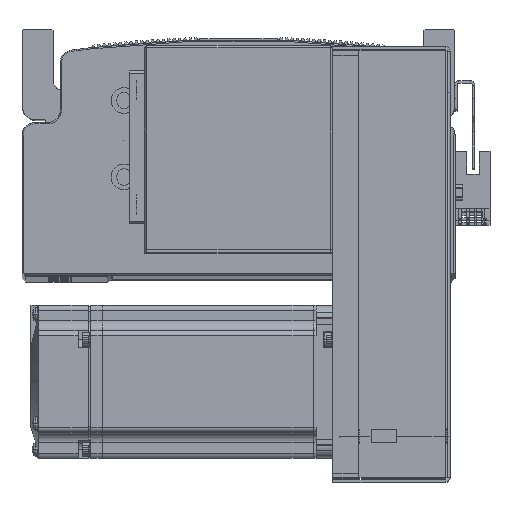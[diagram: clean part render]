
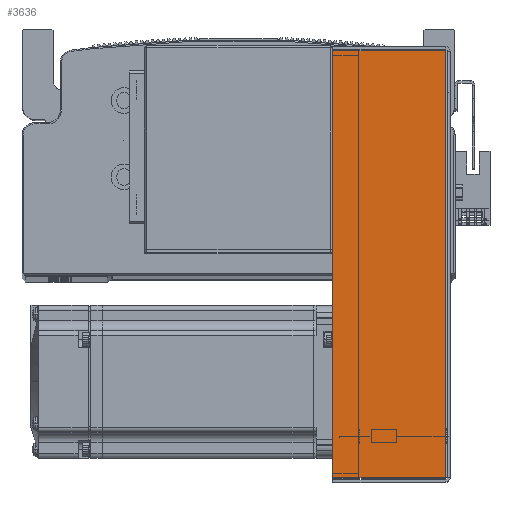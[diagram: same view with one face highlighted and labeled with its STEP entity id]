
A CAD part, top view. The second image highlights one B-rep face of the part: STEP entity #3636.
In plain terms, the highlighted planar face has unit normal (0, 0, 1) as drawn and (0, 0, -1) by its records, which use the part's own axes.
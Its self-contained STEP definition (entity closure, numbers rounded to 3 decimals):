
#3636 = ADVANCED_FACE ( 'NONE', ( #55037 ), #89394, .F. ) ;
#8053 = VECTOR ( 'NONE', #28807, 1000. ) ;
#8128 = LINE ( 'NONE', #28802, #8053 ) ;
#8194 = LINE ( 'NONE', #28913, #8198 ) ;
#8198 = VECTOR ( 'NONE', #29033, 1000. ) ;
#8288 = VECTOR ( 'NONE', #29260, 1000. ) ;
#8298 = LINE ( 'NONE', #29172, #8288 ) ;
#8305 = VECTOR ( 'NONE', #29243, 1000. ) ;
#8363 = LINE ( 'NONE', #29230, #8305 ) ;
#18634 = CARTESIAN_POINT ( 'NONE',  ( -83.793, 0.737, -40.5 ) ) ;
#28802 = CARTESIAN_POINT ( 'NONE',  ( 0., 0.737, -40.5 ) ) ;
#28807 = DIRECTION ( 'NONE',  ( 1., 0., 0. ) ) ;
#28913 = CARTESIAN_POINT ( 'NONE',  ( 84.5, 45., -40.5 ) ) ;
#29033 = DIRECTION ( 'NONE',  ( 1., 0., 0. ) ) ;
#29172 = CARTESIAN_POINT ( 'NONE',  ( -83.793, 0., -40.5 ) ) ;
#29230 = CARTESIAN_POINT ( 'NONE',  ( 83.793, 0., -40.5 ) ) ;
#29243 = DIRECTION ( 'NONE',  ( 0., 1., 0. ) ) ;
#29260 = DIRECTION ( 'NONE',  ( 0., 1., 0. ) ) ;
#42232 = ORIENTED_EDGE ( 'NONE', *, *, #54610, .F. ) ;
#42255 = ORIENTED_EDGE ( 'NONE', *, *, #54825, .F. ) ;
#42320 = ORIENTED_EDGE ( 'NONE', *, *, #54815, .T. ) ;
#42474 = ORIENTED_EDGE ( 'NONE', *, *, #54716, .T. ) ;
#46835 = AXIS2_PLACEMENT_3D ( 'NONE', #89405, #89381, #89407 ) ;
#54610 = EDGE_CURVE ( 'NONE', #60456, #60381, #8128, .T. ) ;
#54716 = EDGE_CURVE ( 'NONE', #60333, #60318, #8194, .T. ) ;
#54815 = EDGE_CURVE ( 'NONE', #60456, #60333, #8298, .T. ) ;
#54825 = EDGE_CURVE ( 'NONE', #60381, #60318, #8363, .T. ) ;
#55037 = FACE_OUTER_BOUND ( 'NONE', #80037, .T. ) ;
#60318 = VERTEX_POINT ( 'NONE', #78968 ) ;
#60333 = VERTEX_POINT ( 'NONE', #78978 ) ;
#60381 = VERTEX_POINT ( 'NONE', #78033 ) ;
#60456 = VERTEX_POINT ( 'NONE', #18634 ) ;
#78033 = CARTESIAN_POINT ( 'NONE',  ( 83.793, 0.737, -40.5 ) ) ;
#78968 = CARTESIAN_POINT ( 'NONE',  ( 83.793, 45., -40.5 ) ) ;
#78978 = CARTESIAN_POINT ( 'NONE',  ( -83.793, 45., -40.5 ) ) ;
#80037 = EDGE_LOOP ( 'NONE', ( #42232, #42320, #42474, #42255 ) ) ;
#89381 = DIRECTION ( 'NONE',  ( 0., 0., 1. ) ) ;
#89394 = PLANE ( 'NONE',  #46835 ) ;
#89405 = CARTESIAN_POINT ( 'NONE',  ( 0., 0., -40.5 ) ) ;
#89407 = DIRECTION ( 'NONE',  ( 0., -1., 0. ) ) ;
